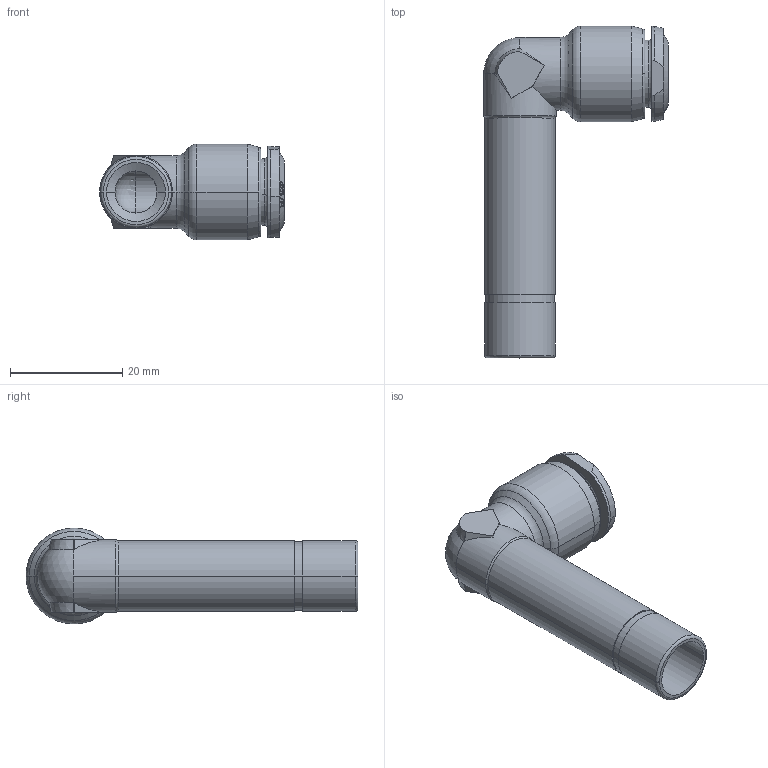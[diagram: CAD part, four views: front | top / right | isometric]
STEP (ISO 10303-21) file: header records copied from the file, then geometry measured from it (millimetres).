
FILE_DESCRIPTION (( 'STEP AP214' ), '1' );
FILE_NAME ('8515000010.STEP', '2019-10-09T06:25:10', ( 'admin' ), ( '' ), 'SwSTEP 2.0', 'SolidWorks 2016', '' );
FILE_SCHEMA (( 'AUTOMOTIVE_DESIGN' ));
Length unit declared in the file: millimetre
Products named in the file (1): 8515000010
Bounding box: 33 x 59.25 x 17.1 mm (x, y, z)
Volume: 5393.4 mm3; surface area: 6058.2 mm2
Topology: 1 solids, 1 shells, 149 faces, 368 edges, 230 vertices
Faces by surface type: bspline 58, cone 30, cylinder 25, plane 22, torus 12, sphere 2
Entity records: 10104 total; most frequent: CARTESIAN_POINT 5443, ORIENTED_EDGE 732, DIRECTION 434, EDGE_CURVE 366, VERTEX_POINT 230, B_SPLINE_CURVE_WITH_KNOTS 192, AXIS2_PLACEMENT_3D 184, EDGE_LOOP 162
